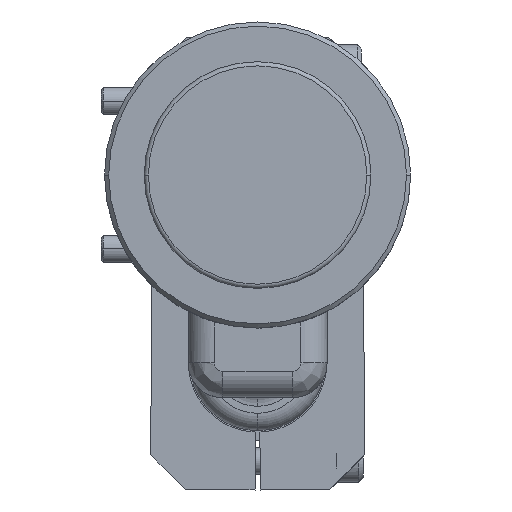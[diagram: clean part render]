
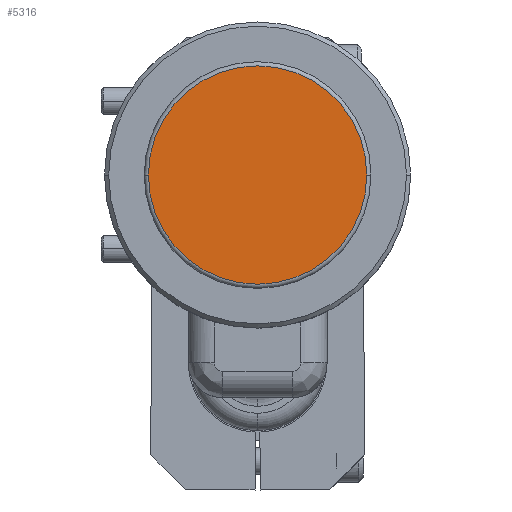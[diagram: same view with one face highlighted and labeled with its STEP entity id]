
A CAD part, front view. The second image highlights one B-rep face of the part: STEP entity #5316.
In plain terms, the highlighted planar face has unit normal (0, -1, 0).
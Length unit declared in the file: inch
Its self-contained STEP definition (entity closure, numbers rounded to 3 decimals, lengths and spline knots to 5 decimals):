
#5233=CARTESIAN_POINT('',(0.,-3.988,0.));
#5234=DIRECTION('',(0.,-1.,0.));
#5235=DIRECTION('',(1.,0.,0.));
#5236=AXIS2_PLACEMENT_3D('',#5233,#5234,#5235);
#5284=CARTESIAN_POINT('',(0.,-3.988,0.));
#5285=DIRECTION('',(0.,1.,0.));
#5286=DIRECTION('',(1.,0.,0.));
#5287=AXIS2_PLACEMENT_3D('',#5284,#5285,#5286);
#5301=CARTESIAN_POINT('',(0.785,-3.988,0.));
#5302=CARTESIAN_POINT('',(-0.785,-3.988,0.));
#5303=VERTEX_POINT('',#5301);
#5304=VERTEX_POINT('',#5302);
#5305=CARTESIAN_POINT('',(0.,-3.988,0.));
#5306=DIRECTION('',(0.,-1.,0.));
#5307=DIRECTION('',(-1.,0.,0.));
#5308=AXIS2_PLACEMENT_3D('',#5305,#5306,#5307);
#5309=PLANE('',#5308);
#5311=ORIENTED_EDGE('',*,*,#5310,.F.);
#5313=ORIENTED_EDGE('',*,*,#5312,.T.);
#5314=EDGE_LOOP('',(#5311,#5313));
#5315=FACE_OUTER_BOUND('',#5314,.F.);
#5316=ADVANCED_FACE('',(#5315),#5309,.T.);
#5237=CIRCLE('',#5236,0.785);
#5288=CIRCLE('',#5287,0.785);
#5310=EDGE_CURVE('',#5303,#5304,#5237,.T.);
#5312=EDGE_CURVE('',#5303,#5304,#5288,.T.);
